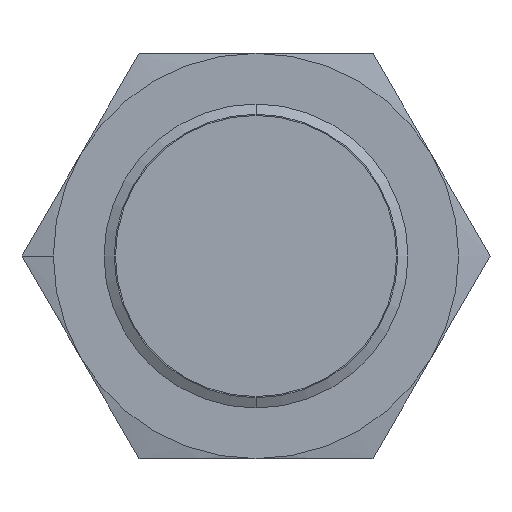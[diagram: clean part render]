
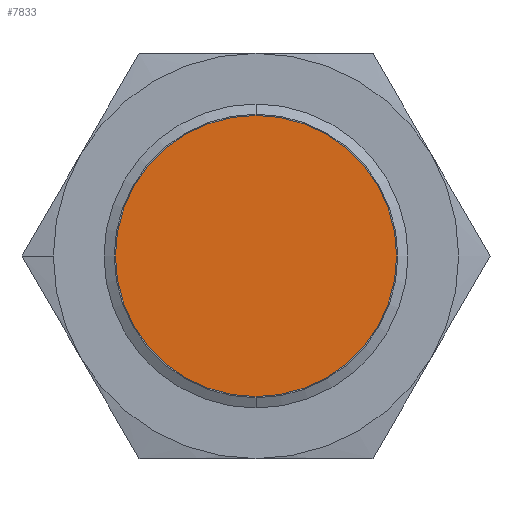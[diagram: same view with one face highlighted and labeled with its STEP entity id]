
A CAD part, left-side view. The second image highlights one B-rep face of the part: STEP entity #7833.
In plain terms, the highlighted planar face has unit normal (-1, 0, 0).
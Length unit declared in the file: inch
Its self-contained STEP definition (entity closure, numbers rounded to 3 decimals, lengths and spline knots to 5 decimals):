
#427 = FACE_OUTER_BOUND ( 'NONE', #7510, .T. ) ;
#428 = PLANE ( 'NONE',  #429 ) ;
#429 = AXIS2_PLACEMENT_3D ( 'NONE', #430, #431, #432 ) ;
#430 = CARTESIAN_POINT ( 'NONE',  ( 7.73668, 0., -8.44799 ) ) ;
#431 = DIRECTION ( 'NONE',  ( 1., 0., 0. ) ) ;
#432 = DIRECTION ( 'NONE',  ( 0., 0., -1. ) ) ;
#1165 = VERTEX_POINT ( 'NONE', #11194 ) ;
#1421 = VERTEX_POINT ( 'NONE', #11343 ) ;
#1671 = EDGE_CURVE ( 'NONE', #1421, #1165, #11478, .T. ) ;
#5952 = EDGE_CURVE ( 'NONE', #1165, #1421, #13682, .T. ) ;
#6354 = ORIENTED_EDGE ( 'NONE', *, *, #5952, .F. ) ;
#6941 = ORIENTED_EDGE ( 'NONE', *, *, #1671, .F. ) ;
#7510 = EDGE_LOOP ( 'NONE', ( #6941, #6354 ) ) ;
#7833 = ADVANCED_FACE ( 'NONE', ( #427 ), #428, .F. ) ;
#11194 = CARTESIAN_POINT ( 'NONE',  ( 7.73668, 0., -8.12049 ) ) ;
#11343 = CARTESIAN_POINT ( 'NONE',  ( 7.73668, 0., -8.77549 ) ) ;
#11478 = CIRCLE ( 'NONE', #11479, 0.3275 ) ;
#11479 = AXIS2_PLACEMENT_3D ( 'NONE', #11480, #11481, #11482 ) ;
#11480 = CARTESIAN_POINT ( 'NONE',  ( 7.73668, 0., -8.44799 ) ) ;
#11481 = DIRECTION ( 'NONE',  ( 1., 0., 0. ) ) ;
#11482 = DIRECTION ( 'NONE',  ( 0., 0., -1. ) ) ;
#13682 = CIRCLE ( 'NONE', #13683, 0.3275 ) ;
#13683 = AXIS2_PLACEMENT_3D ( 'NONE', #13684, #13685, #13686 ) ;
#13684 = CARTESIAN_POINT ( 'NONE',  ( 7.73668, 0., -8.44799 ) ) ;
#13685 = DIRECTION ( 'NONE',  ( 1., 0., 0. ) ) ;
#13686 = DIRECTION ( 'NONE',  ( 0., 0., -1. ) ) ;
